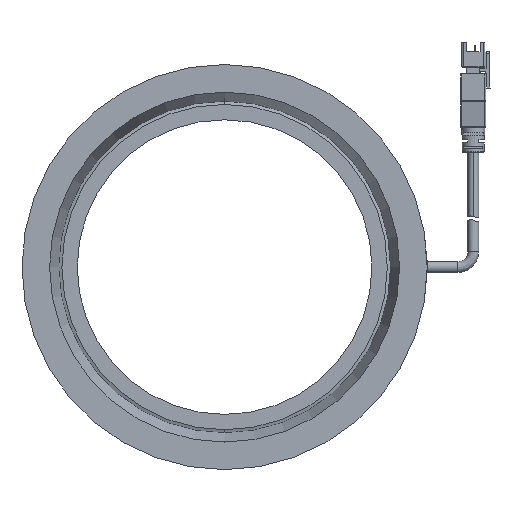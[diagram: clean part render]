
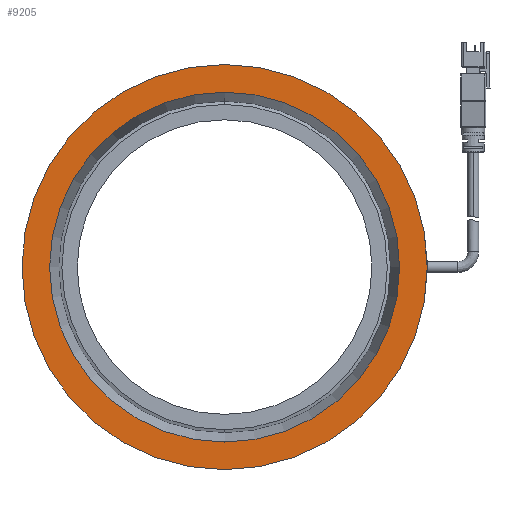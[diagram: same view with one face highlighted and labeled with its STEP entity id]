
A CAD part, front view. The second image highlights one B-rep face of the part: STEP entity #9205.
In plain terms, the highlighted planar face has unit normal (0, -1, 0).
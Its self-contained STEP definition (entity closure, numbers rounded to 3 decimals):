
#96 = EDGE_CURVE ( 'NONE', #6898, #7547, #4440, .T. ) ;
#150 = EDGE_CURVE ( 'NONE', #4803, #10710, #321, .T. ) ;
#321 = CIRCLE ( 'NONE', #2173, 57. ) ;
#494 = CARTESIAN_POINT ( 'NONE',  ( 89.057, -0.679, 0. ) ) ;
#1144 = ORIENTED_EDGE ( 'NONE', *, *, #96, .T. ) ;
#1538 = CARTESIAN_POINT ( 'NONE',  ( 32.057, -0.679, 0. ) ) ;
#1992 = FACE_BOUND ( 'NONE', #11010, .T. ) ;
#2160 = DIRECTION ( 'NONE',  ( 0., 0., -1. ) ) ;
#2173 = AXIS2_PLACEMENT_3D ( 'NONE', #5036, #2202, #10977 ) ;
#2202 = DIRECTION ( 'NONE',  ( 0., -1., 0. ) ) ;
#2344 = AXIS2_PLACEMENT_3D ( 'NONE', #494, #11338, #8382 ) ;
#4065 = DIRECTION ( 'NONE',  ( 0., -1., 0. ) ) ;
#4440 = CIRCLE ( 'NONE', #7178, 66. ) ;
#4570 = FACE_OUTER_BOUND ( 'NONE', #6027, .T. ) ;
#4803 = VERTEX_POINT ( 'NONE', #6191 ) ;
#5036 = CARTESIAN_POINT ( 'NONE',  ( 32.057, -0.679, 0. ) ) ;
#5400 = PLANE ( 'NONE',  #2344 ) ;
#5760 = CIRCLE ( 'NONE', #8569, 66. ) ;
#5977 = DIRECTION ( 'NONE',  ( 0., -1., 0. ) ) ;
#6027 = EDGE_LOOP ( 'NONE', ( #8492, #1144 ) ) ;
#6040 = CARTESIAN_POINT ( 'NONE',  ( 32.057, -0.679, 66. ) ) ;
#6071 = CARTESIAN_POINT ( 'NONE',  ( 32.057, -0.679, 0. ) ) ;
#6191 = CARTESIAN_POINT ( 'NONE',  ( 32.057, -0.679, 57. ) ) ;
#6750 = ORIENTED_EDGE ( 'NONE', *, *, #8126, .F. ) ;
#6898 = VERTEX_POINT ( 'NONE', #6040 ) ;
#7130 = AXIS2_PLACEMENT_3D ( 'NONE', #8976, #4065, #9063 ) ;
#7174 = ORIENTED_EDGE ( 'NONE', *, *, #150, .F. ) ;
#7178 = AXIS2_PLACEMENT_3D ( 'NONE', #6071, #5977, #2160 ) ;
#7547 = VERTEX_POINT ( 'NONE', #7759 ) ;
#7759 = CARTESIAN_POINT ( 'NONE',  ( 32.057, -0.679, -66. ) ) ;
#8126 = EDGE_CURVE ( 'NONE', #10710, #4803, #11529, .T. ) ;
#8382 = DIRECTION ( 'NONE',  ( 0., 0., -1. ) ) ;
#8492 = ORIENTED_EDGE ( 'NONE', *, *, #10314, .T. ) ;
#8569 = AXIS2_PLACEMENT_3D ( 'NONE', #1538, #11224, #9290 ) ;
#8976 = CARTESIAN_POINT ( 'NONE',  ( 32.057, -0.679, 0. ) ) ;
#9063 = DIRECTION ( 'NONE',  ( 0., 0., -1. ) ) ;
#9119 = CARTESIAN_POINT ( 'NONE',  ( 32.057, -0.679, -57. ) ) ;
#9205 = ADVANCED_FACE ( 'NONE', ( #4570, #1992 ), #5400, .T. ) ;
#9290 = DIRECTION ( 'NONE',  ( 0., 0., -1. ) ) ;
#10314 = EDGE_CURVE ( 'NONE', #7547, #6898, #5760, .T. ) ;
#10710 = VERTEX_POINT ( 'NONE', #9119 ) ;
#10977 = DIRECTION ( 'NONE',  ( 0., 0., -1. ) ) ;
#11010 = EDGE_LOOP ( 'NONE', ( #6750, #7174 ) ) ;
#11224 = DIRECTION ( 'NONE',  ( 0., -1., 0. ) ) ;
#11338 = DIRECTION ( 'NONE',  ( 0., -1., 0. ) ) ;
#11529 = CIRCLE ( 'NONE', #7130, 57. ) ;
